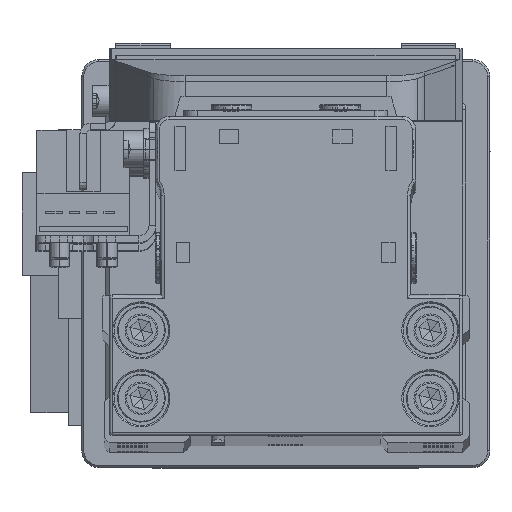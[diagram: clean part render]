
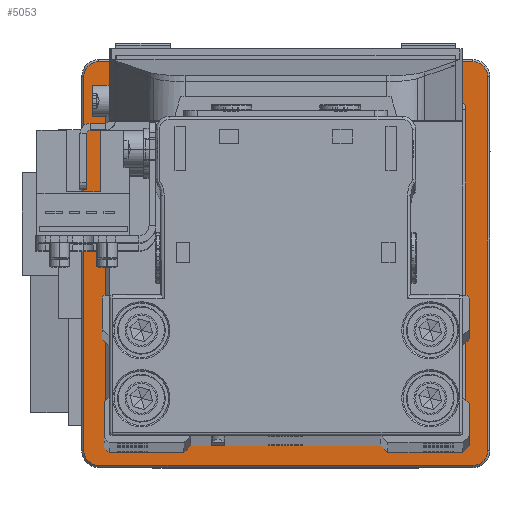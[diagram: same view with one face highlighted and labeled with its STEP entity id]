
A CAD part, top view. The second image highlights one B-rep face of the part: STEP entity #5053.
In plain terms, the highlighted planar face has unit normal (0, 0, 1) as drawn and (0, 1, 0) by its records, which use the part's own axes.
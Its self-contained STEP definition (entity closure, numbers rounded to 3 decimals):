
#367 = VECTOR ( 'NONE', #32010, 1000. ) ;
#478 = LINE ( 'NONE', #12124, #19958 ) ;
#631 = EDGE_CURVE ( 'NONE', #13870, #24856, #30567, .T. ) ;
#899 = DIRECTION ( 'NONE',  ( 0., 1., 0. ) ) ;
#987 = CARTESIAN_POINT ( 'NONE',  ( -27.5, 6., 29.7 ) ) ;
#1317 = EDGE_CURVE ( 'NONE', #11309, #20367, #9245, .T. ) ;
#1608 = CARTESIAN_POINT ( 'NONE',  ( 27.5, 6., -27.5 ) ) ;
#2607 = FACE_BOUND ( 'NONE', #34036, .T. ) ;
#3292 = EDGE_CURVE ( 'NONE', #27874, #16169, #8690, .T. ) ;
#4388 = CARTESIAN_POINT ( 'NONE',  ( -29.7, 6., 0. ) ) ;
#5053 = ADVANCED_FACE ( 'NONE', ( #28799, #2607 ), #14237, .F. ) ;
#5262 = DIRECTION ( 'NONE',  ( 0., 1., 0. ) ) ;
#6473 = VECTOR ( 'NONE', #36843, 1000. ) ;
#6590 = CARTESIAN_POINT ( 'NONE',  ( -27.5, 6., -29.7 ) ) ;
#6625 = EDGE_CURVE ( 'NONE', #14144, #27874, #16222, .T. ) ;
#7505 = EDGE_CURVE ( 'NONE', #14856, #35335, #478, .T. ) ;
#7515 = ORIENTED_EDGE ( 'NONE', *, *, #17621, .T. ) ;
#8612 = EDGE_CURVE ( 'NONE', #19048, #14144, #13522, .T. ) ;
#8662 = AXIS2_PLACEMENT_3D ( 'NONE', #34872, #8685, #20353 ) ;
#8685 = DIRECTION ( 'NONE',  ( 0., 1., 0. ) ) ;
#8690 = LINE ( 'NONE', #20356, #367 ) ;
#8731 = ORIENTED_EDGE ( 'NONE', *, *, #21513, .T. ) ;
#9245 = CIRCLE ( 'NONE', #8662, 15. ) ;
#9685 = DIRECTION ( 'NONE',  ( 0., 1., 0. ) ) ;
#9994 = AXIS2_PLACEMENT_3D ( 'NONE', #27087, #9685, #21368 ) ;
#10083 = ORIENTED_EDGE ( 'NONE', *, *, #6625, .T. ) ;
#10305 = AXIS2_PLACEMENT_3D ( 'NONE', #31425, #5262, #16912 ) ;
#10977 = DIRECTION ( 'NONE',  ( 0., 0., -1. ) ) ;
#11309 = VERTEX_POINT ( 'NONE', #23732 ) ;
#11392 = DIRECTION ( 'NONE',  ( 0., 0., -1. ) ) ;
#12124 = CARTESIAN_POINT ( 'NONE',  ( 0., 6., 29.7 ) ) ;
#12555 = DIRECTION ( 'NONE',  ( 0., 0., 1. ) ) ;
#13251 = DIRECTION ( 'NONE',  ( 0., 1., 0. ) ) ;
#13522 = LINE ( 'NONE', #25191, #6473 ) ;
#13870 = VERTEX_POINT ( 'NONE', #28815 ) ;
#13888 = CARTESIAN_POINT ( 'NONE',  ( 29.7, 6., 27.5 ) ) ;
#14144 = VERTEX_POINT ( 'NONE', #24964 ) ;
#14237 = PLANE ( 'NONE',  #31369 ) ;
#14686 = AXIS2_PLACEMENT_3D ( 'NONE', #27095, #899, #12555 ) ;
#14856 = VERTEX_POINT ( 'NONE', #987 ) ;
#15631 = CARTESIAN_POINT ( 'NONE',  ( 27.5, 6., -29.7 ) ) ;
#16026 = DIRECTION ( 'NONE',  ( 0., 0., 1. ) ) ;
#16169 = VERTEX_POINT ( 'NONE', #6590 ) ;
#16222 = CIRCLE ( 'NONE', #37588, 2.2 ) ;
#16912 = DIRECTION ( 'NONE',  ( 0., 0., -1. ) ) ;
#17028 = CIRCLE ( 'NONE', #21929, 2.2 ) ;
#17621 = EDGE_CURVE ( 'NONE', #24856, #14856, #26493, .T. ) ;
#17818 = CARTESIAN_POINT ( 'NONE',  ( 0., 6., -15. ) ) ;
#19048 = VERTEX_POINT ( 'NONE', #13888 ) ;
#19958 = VECTOR ( 'NONE', #23797, 1000. ) ;
#20353 = DIRECTION ( 'NONE',  ( 0., 0., 1. ) ) ;
#20356 = CARTESIAN_POINT ( 'NONE',  ( 0., 6., -29.7 ) ) ;
#20367 = VERTEX_POINT ( 'NONE', #17818 ) ;
#21191 = VECTOR ( 'NONE', #16026, 1000. ) ;
#21368 = DIRECTION ( 'NONE',  ( 0., 0., -1. ) ) ;
#21479 = EDGE_CURVE ( 'NONE', #16169, #13870, #17028, .T. ) ;
#21513 = EDGE_CURVE ( 'NONE', #35335, #19048, #26820, .T. ) ;
#21929 = AXIS2_PLACEMENT_3D ( 'NONE', #25533, #37173, #10977 ) ;
#23207 = ORIENTED_EDGE ( 'NONE', *, *, #3292, .T. ) ;
#23732 = CARTESIAN_POINT ( 'NONE',  ( 0., 6., 15. ) ) ;
#23797 = DIRECTION ( 'NONE',  ( 1., 0., 0. ) ) ;
#24856 = VERTEX_POINT ( 'NONE', #25136 ) ;
#24932 = DIRECTION ( 'NONE',  ( 0., 0., -1. ) ) ;
#24964 = CARTESIAN_POINT ( 'NONE',  ( 29.7, 6., -27.5 ) ) ;
#25136 = CARTESIAN_POINT ( 'NONE',  ( -29.7, 6., 27.5 ) ) ;
#25191 = CARTESIAN_POINT ( 'NONE',  ( 29.7, 6., 0. ) ) ;
#25533 = CARTESIAN_POINT ( 'NONE',  ( -27.5, 6., -27.5 ) ) ;
#25930 = CARTESIAN_POINT ( 'NONE',  ( 0., 6., 0. ) ) ;
#26198 = ORIENTED_EDGE ( 'NONE', *, *, #27829, .F. ) ;
#26493 = CIRCLE ( 'NONE', #9994, 2.2 ) ;
#26820 = CIRCLE ( 'NONE', #10305, 2.2 ) ;
#26870 = ORIENTED_EDGE ( 'NONE', *, *, #8612, .T. ) ;
#27087 = CARTESIAN_POINT ( 'NONE',  ( -27.5, 6., 27.5 ) ) ;
#27095 = CARTESIAN_POINT ( 'NONE',  ( 0., 6., 0. ) ) ;
#27829 = EDGE_CURVE ( 'NONE', #20367, #11309, #31173, .T. ) ;
#27874 = VERTEX_POINT ( 'NONE', #15631 ) ;
#28799 = FACE_OUTER_BOUND ( 'NONE', #36031, .T. ) ;
#28815 = CARTESIAN_POINT ( 'NONE',  ( -29.7, 6., -27.5 ) ) ;
#29368 = ORIENTED_EDGE ( 'NONE', *, *, #1317, .F. ) ;
#29560 = CARTESIAN_POINT ( 'NONE',  ( 27.5, 6., 29.7 ) ) ;
#29598 = ORIENTED_EDGE ( 'NONE', *, *, #631, .T. ) ;
#30567 = LINE ( 'NONE', #4388, #21191 ) ;
#30663 = ORIENTED_EDGE ( 'NONE', *, *, #7505, .T. ) ;
#31173 = CIRCLE ( 'NONE', #14686, 15. ) ;
#31369 = AXIS2_PLACEMENT_3D ( 'NONE', #25930, #37586, #11392 ) ;
#31425 = CARTESIAN_POINT ( 'NONE',  ( 27.5, 6., 27.5 ) ) ;
#32010 = DIRECTION ( 'NONE',  ( -1., 0., 0. ) ) ;
#33834 = ORIENTED_EDGE ( 'NONE', *, *, #21479, .T. ) ;
#34036 = EDGE_LOOP ( 'NONE', ( #29368, #26198 ) ) ;
#34872 = CARTESIAN_POINT ( 'NONE',  ( 0., 6., 0. ) ) ;
#35335 = VERTEX_POINT ( 'NONE', #29560 ) ;
#36031 = EDGE_LOOP ( 'NONE', ( #10083, #23207, #33834, #29598, #7515, #30663, #8731, #26870 ) ) ;
#36843 = DIRECTION ( 'NONE',  ( 0., 0., -1. ) ) ;
#37173 = DIRECTION ( 'NONE',  ( 0., 1., 0. ) ) ;
#37586 = DIRECTION ( 'NONE',  ( 0., -1., 0. ) ) ;
#37588 = AXIS2_PLACEMENT_3D ( 'NONE', #1608, #13251, #24932 ) ;
